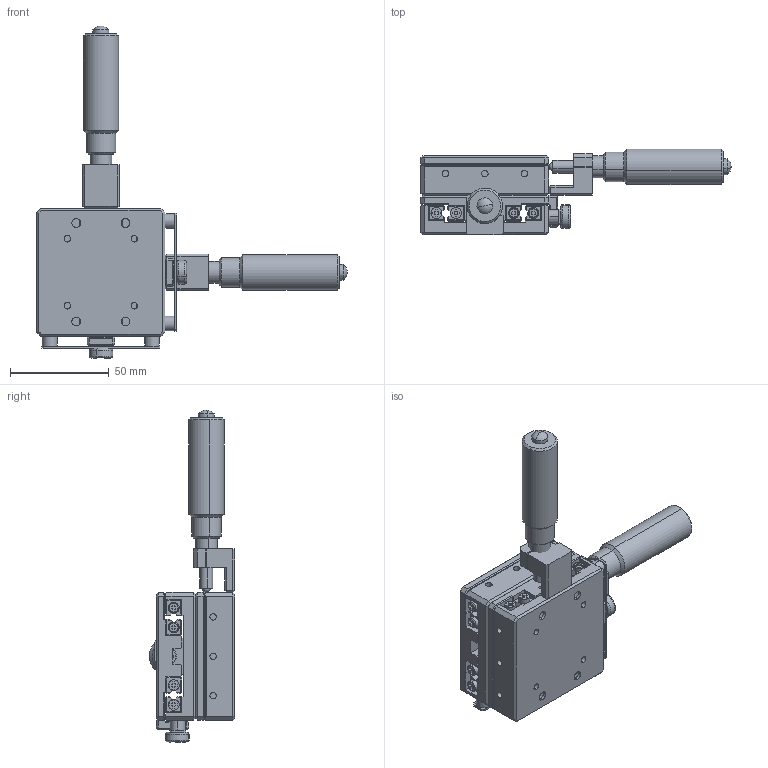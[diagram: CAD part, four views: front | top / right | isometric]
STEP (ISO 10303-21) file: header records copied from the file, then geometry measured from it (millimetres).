
FILE_DESCRIPTION (( 'STEP AP203' ), '1' );
FILE_NAME ('SP110-25-65H媼峎郪磁.STEP', '2020-04-03T01:53:00', ( 'PC' ), ( 'Microsoft' ), 'SwSTEP 2.0', 'SolidWorks 2016', '' );
FILE_SCHEMA (( 'CONFIG_CONTROL_DESIGN' ));
Length unit declared in the file: millimetre
Products named in the file (10): SP110-25-65H媼峎郪磁; SP110-25-65H嘐隅啣; SP110-25-65H坶踡輸; SP110-25-65H峚煦芛釱; SP110-25-65H癹弇え; 絳寢V3-60; SP110-13-65H癹弇忒謫; 25-峚煦芛; SP110-25-65H; SP110-13-65H痄雄啣
Assembly tree (13 placements, depth 3):
  SP110-25-65H媼峎郪磁
    SP110-25-65H  x2
      SP110-13-65H痄雄啣
      SP110-25-65H嘐隅啣
      SP110-25-65H坶踡輸
      SP110-25-65H峚煦芛釱
      SP110-25-65H癹弇え
      絳寢V3-60
      SP110-13-65H癹弇忒謫
      25-峚煦芛
Bounding box: 157.5 x 43.49 x 168.5 mm (x, y, z)
Volume: 185387.9 mm3; surface area: 87749.9 mm2
Topology: 22 solids, 22 shells, 1290 faces, 3214 edges, 2024 vertices
Faces by surface type: plane 824, cylinder 416, cone 32, bspline 12, sphere 6
Entity records: 13186 total; most frequent: CARTESIAN_POINT 2138, DIRECTION 2132, ORIENTED_EDGE 1980, EDGE_CURVE 990, AXIS2_PLACEMENT_3D 741, LINE 650, VECTOR 650, VERTEX_POINT 627
